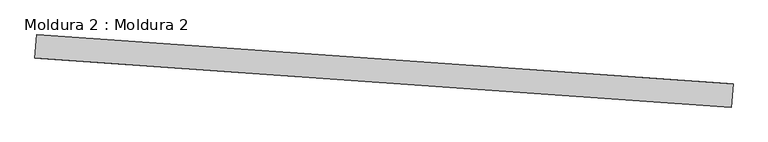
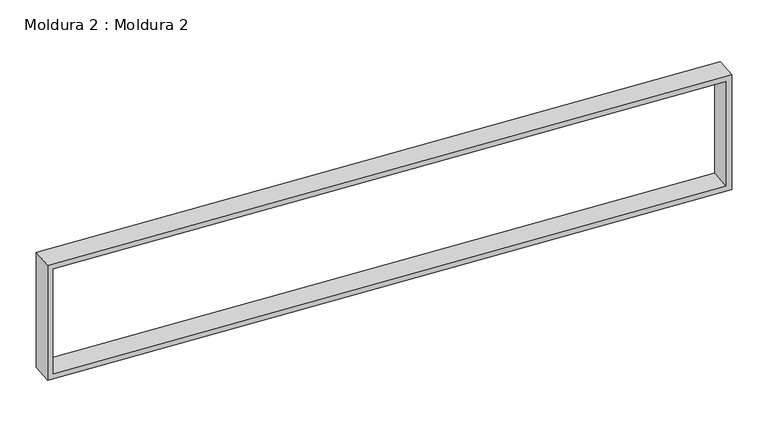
"""IFC4 building model written with IfcOpenShell, lengths in millimetres: proxy geometry, Moldura 2 : Moldura 2."""

import ifcopenshell
import ifcopenshell.guid

model = None  # the IFC model being written
_history = None  # IfcOwnerHistory: only IFC2X3 demands one
_inside = {}  # id of a spatial element -> (the spatial element, [elements in it])
_under = {}  # id of a project, library or spatial element -> (it, [spatial elements below it])
_declared = {}  # id of a project -> (the project, [libraries it declares])
_typed = {}  # id of a type object -> (the type object, [elements of that type])
_made_of = {}  # id of a material, layer set ... -> (it, [elements and type objects made of it])


def new_model(schema):
    """Start an empty IFC model of exactly this schema.

    Asked for "IFC4X3", IfcOpenShell would pick the latest addendum, in which some entities
    have other attributes; the version numbers below select the first issue.
    IFC2X3 requires an IfcOwnerHistory on every rooted entity: one is made here for all.
    """
    global model, _history
    if schema == "IFC4X3":
        model = ifcopenshell.file(schema_version=(4, 3, 0, 0))
    else:
        model = ifcopenshell.file(schema=schema)
    _inside.clear()
    _under.clear()
    _declared.clear()
    _typed.clear()
    _made_of.clear()
    _history = None
    if model.schema == "IFC2X3":
        org = make("IfcOrganization", Name="unknown")
        user = make(
            "IfcPersonAndOrganization",
            ThePerson=make("IfcPerson", FamilyName="unknown"),
            TheOrganization=org,
        )
        app = make(
            "IfcApplication",
            ApplicationDeveloper=org,
            Version="unknown",
            ApplicationFullName="unknown",
            ApplicationIdentifier="unknown",
        )
        _history = make(
            "IfcOwnerHistory",
            OwningUser=user,
            OwningApplication=app,
            ChangeAction="ADDED",
            CreationDate=0,
        )
    return model


def make(cls, **values):
    """One entity of the class cls with the attributes given. An attribute that is None is left unset."""
    return model.create_entity(
        cls, **{name: value for name, value in values.items() if value is not None}
    )


def rooted(cls, **values):
    """An entity with a GlobalId (a new one), such as an element, a storey or a relation."""
    return make(cls, GlobalId=ifcopenshell.guid.new(), OwnerHistory=_history, **values)


def si_unit(unit_type, name, prefix=None):
    """IfcSIUnit, for example si_unit("LENGTHUNIT", "METRE", prefix="MILLI")."""
    return make("IfcSIUnit", UnitType=unit_type, Prefix=prefix, Name=name)


def assignment(units):
    """IfcUnitAssignment: the units of a project."""
    return None if units is None else make("IfcUnitAssignment", Units=units)


def point(xyz):
    """IfcCartesianPoint."""
    return None if xyz is None else make("IfcCartesianPoint", Coordinates=xyz)


def direction(xyz):
    """IfcDirection."""
    return None if xyz is None else make("IfcDirection", DirectionRatios=xyz)


def frame(location, z_axis=None, x_axis=None):
    """IfcAxis2Placement3D, a coordinate frame: its origin and axes. An axis left out is left unset."""
    return make(
        "IfcAxis2Placement3D",
        Location=point(location),
        Axis=direction(z_axis),
        RefDirection=direction(x_axis),
    )


def origin():
    """The frame at (0, 0, 0) with its axes left unset."""
    return frame((0.0, 0.0, 0.0))


def place(relative_to, where):
    """IfcLocalPlacement: puts the frame where relative to a parent placement (None: the world)."""
    return make(
        "IfcLocalPlacement", PlacementRelTo=relative_to, RelativePlacement=where
    )


def context(
    kind, dimensions, precision=None, world=None, true_north=None, identifier=None
):
    """IfcGeometricRepresentationContext, for example the 3D "Model" context."""
    return make(
        "IfcGeometricRepresentationContext",
        ContextIdentifier=identifier,
        ContextType=kind,
        CoordinateSpaceDimension=dimensions,
        Precision=precision,
        WorldCoordinateSystem=world,
        TrueNorth=true_north,
    )


def project(units=None, contexts=None):
    """IfcProject with its units and contexts."""
    return rooted(
        "IfcProject",
        Name="project",
        RepresentationContexts=contexts,
        UnitsInContext=assignment(units),
    )


def spatial(cls, under=None, at=None, **own):
    """A site, building, storey or space (cls), placed at a placement, below another one or the project."""
    s = rooted(cls, ObjectPlacement=at, **own)
    if under is not None:
        _under.setdefault(under.id(), (under, []))[1].append(s)
    return s


def polyline(points):
    """IfcPolyline through the points."""
    return make("IfcPolyline", Points=[point(p) for p in points])


def outline(outer, holes=None, kind="AREA"):
    """IfcArbitraryClosedProfileDef: a profile drawn as a closed curve; with holes, ...WithVoids."""
    if holes is None:
        return make("IfcArbitraryClosedProfileDef", ProfileType=kind, OuterCurve=outer)
    return make(
        "IfcArbitraryProfileDefWithVoids",
        ProfileType=kind,
        OuterCurve=outer,
        InnerCurves=holes,
    )


def extrude(swept, where, along, depth):
    """IfcExtrudedAreaSolid: the profile swept, set in the frame where, extruded along a direction by depth."""
    return make(
        "IfcExtrudedAreaSolid",
        SweptArea=swept,
        Position=where,
        ExtrudedDirection=direction(along),
        Depth=depth,
    )


def shape(context_of_items, identifier, shape_type, items):
    """IfcShapeRepresentation: the items that make up one representation, for example the "Body"."""
    return make(
        "IfcShapeRepresentation",
        ContextOfItems=context_of_items,
        RepresentationIdentifier=identifier,
        RepresentationType=shape_type,
        Items=items,
    )


def source(mapping_origin, context_of_items, identifier, shape_type, items):
    """IfcRepresentationMap: a shape defined once, which mapped items show again and again."""
    return make(
        "IfcRepresentationMap",
        MappingOrigin=mapping_origin,
        MappedRepresentation=shape(context_of_items, identifier, shape_type, items),
    )


def transform(
    local_origin,
    x_axis=None,
    y_axis=None,
    z_axis=None,
    scale=None,
    scale2=None,
    scale3=None,
    uniform=True,
):
    """IfcCartesianTransformationOperator3D, or its non-uniform kind. x_axis, y_axis, z_axis: its Axis1, 2, 3."""
    if uniform:
        return make(
            "IfcCartesianTransformationOperator3D",
            Axis1=direction(x_axis),
            Axis2=direction(y_axis),
            LocalOrigin=point(local_origin),
            Scale=scale,
            Axis3=direction(z_axis),
        )
    return make(
        "IfcCartesianTransformationOperator3DnonUniform",
        Axis1=direction(x_axis),
        Axis2=direction(y_axis),
        LocalOrigin=point(local_origin),
        Scale=scale,
        Axis3=direction(z_axis),
        Scale2=scale2,
        Scale3=scale3,
    )


def mapped(mapping_source, mapping_target):
    """IfcMappedItem: shows the shape of a source again, moved by a transform."""
    return make(
        "IfcMappedItem", MappingSource=mapping_source, MappingTarget=mapping_target
    )


def made_of(thing, what):
    """Note that an element or type object is made of a material, layer set ...; save() writes the relation."""
    if what is not None:
        _made_of.setdefault(what.id(), (what, []))[1].append(thing)
    return thing


def element(
    cls,
    number,
    at=None,
    inside=None,
    cuts=None,
    type_object=None,
    material=None,
    context=None,
    identifier="Body",
    shape_type=None,
    held_by="IfcProductDefinitionShape",
    body=None,
    shapes=None,
    **own,
):
    """One element of the class cls, such as IfcWall. Its Tag is "e" and its number.

    at: its placement. inside: the storey or other place that contains it. cuts: it is an
    opening in that element (IfcRelVoidsElement). A single representation is given by context,
    identifier, shape_type and body (its items); several are given by shapes. held_by: the class
    of the entity that holds the representations. save() writes the other relations.
    """
    e = rooted(cls, Tag="e%d" % number, ObjectPlacement=at, **own)
    if body is not None:
        shapes = [shape(context, identifier, shape_type, body)]
    if shapes is not None:
        e.Representation = make(held_by, Representations=shapes)
    if inside is not None:
        _inside.setdefault(inside.id(), (inside, []))[1].append(e)
    if cuts is not None:
        rooted(
            "IfcRelVoidsElement", RelatingBuildingElement=cuts, RelatedOpeningElement=e
        )
    if type_object is not None:
        _typed.setdefault(type_object.id(), (type_object, []))[1].append(e)
    return made_of(e, material)


def aggregate(whole, parts):
    """IfcRelAggregates: a whole, such as a stair, and the parts it consists of."""
    return rooted("IfcRelAggregates", RelatingObject=whole, RelatedObjects=parts)


def save(model, path):
    """Write the relations noted so far, then the file.

    IfcRelAggregates (storeys below a building ...), IfcRelContainedInSpatialStructure (elements
    in a storey), IfcRelDefinesByType, IfcRelAssociatesMaterial and IfcRelDeclares: one each for
    every whole, place, type object, material and project.
    """
    for whole, parts in _under.values():
        aggregate(whole, parts)
    for where, things in _inside.values():
        rooted(
            "IfcRelContainedInSpatialStructure",
            RelatedElements=things,
            RelatingStructure=where,
        )
    for kind, things in _typed.values():
        rooted("IfcRelDefinesByType", RelatedObjects=things, RelatingType=kind)
    for what, things in _made_of.values():
        rooted("IfcRelAssociatesMaterial", RelatedObjects=things, RelatingMaterial=what)
    for by, libraries in _declared.values():
        rooted("IfcRelDeclares", RelatingContext=by, RelatedDefinitions=libraries)
    model.write(path)


def moldura_2_moldura_2_8623e442(model_context):
    return source(origin(), model_context, "Body", "SweptSolid", [
        extrude(outline(polyline([(5900.0, -50.0), (-49.9999999, -50.0), (-49.9999999, 1050.0), (5900.0, 1050.0), (5900.0, -50.0)]), holes=[polyline([(5850.0, 1000.0), (0.0, 1000.0), (0.0, 0.0), (5850.0, 0.0), (5850.0, 1000.0)])]), frame((-251.4750182, -8291.2677671, 6300.0), z_axis=(0.07044601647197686, 0.9975155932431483, 0.0), x_axis=(0.9975155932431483, -0.07044601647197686, 0.0)), (0.0, 0.0, 1.0), 200.0),
    ])


if __name__ == "__main__":
    model = new_model("IFC4")
    model_context = context("Model", 3, world=origin())
    ifc_project = project(units=[si_unit("LENGTHUNIT", "METRE", prefix="MILLI")], contexts=[model_context])
    site = spatial("IfcSite", under=ifc_project)
    building = spatial("IfcBuilding", under=site)
    placement = place(None, origin())
    moldura_2_moldura_2_shape = moldura_2_moldura_2_8623e442(model_context)
    element("IfcBuildingElementProxy", 1, Name="Moldura 2 : Moldura 2", ObjectType="Moldura 2 : Moldura 2", at=placement, inside=building, context=model_context, shape_type="MappedRepresentation", body=[
        mapped(moldura_2_moldura_2_shape, transform((0.0, 0.0, 0.0), x_axis=(1.0, 0.0, 0.0), y_axis=(0.0, 1.0, 0.0), z_axis=(0.0, 0.0, 1.0))),
    ])
    save(model, "model.ifc")
